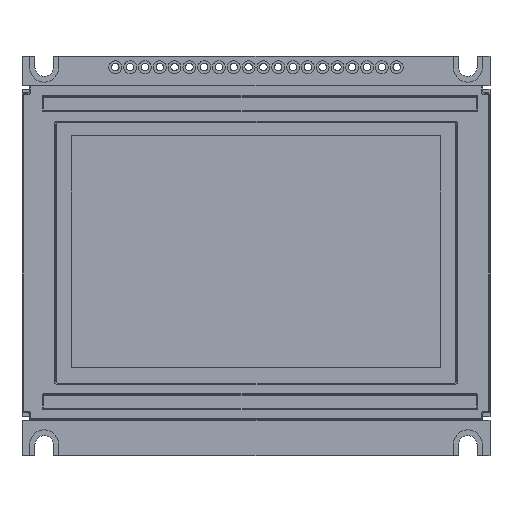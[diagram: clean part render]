
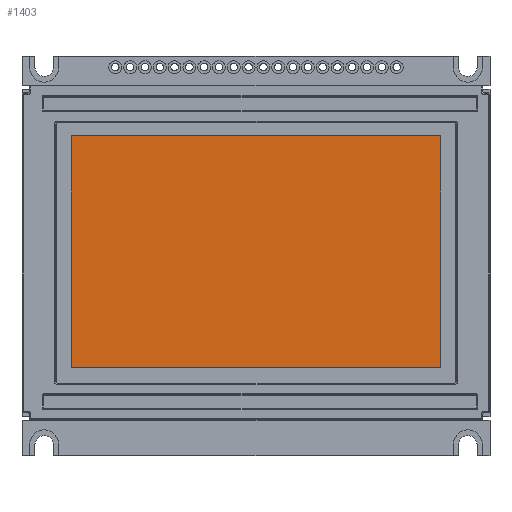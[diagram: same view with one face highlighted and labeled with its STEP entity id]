
A CAD part, top view. The second image highlights one B-rep face of the part: STEP entity #1403.
In plain terms, the highlighted planar face has unit normal (0, 0, 1).
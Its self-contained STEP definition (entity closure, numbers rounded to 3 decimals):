
#1403=ADVANCED_FACE('',(#2850),#2851,.T.);
#2850=FACE_OUTER_BOUND('',#4523,.T.);
#2851=PLANE('',#4524);
#4523=EDGE_LOOP('',(#7430,#7431,#7432,#7433));
#4524=AXIS2_PLACEMENT_3D('',#7434,#7435,#7436);
#7430=ORIENTED_EDGE('',*,*,#10112,.T.);
#7431=ORIENTED_EDGE('',*,*,#10113,.T.);
#7432=ORIENTED_EDGE('',*,*,#10114,.T.);
#7433=ORIENTED_EDGE('',*,*,#10115,.T.);
#7434=CARTESIAN_POINT('',(31.6,-26.438,6.824));
#7435=DIRECTION('',(0.0,0.0,1.0));
#7436=DIRECTION('',(1.0,0.0,0.0));
#10112=EDGE_CURVE('',#12120,#12121,#12122,.T.);
#10113=EDGE_CURVE('',#12121,#12123,#12124,.T.);
#10114=EDGE_CURVE('',#12123,#12125,#12126,.T.);
#10115=EDGE_CURVE('',#12125,#12120,#12127,.T.);
#12120=VERTEX_POINT('',#14778);
#12121=VERTEX_POINT('',#14779);
#12122=LINE('',#14780,#14781);
#12123=VERTEX_POINT('',#14782);
#12124=LINE('',#14783,#14784);
#12125=VERTEX_POINT('',#14785);
#12126=LINE('',#14786,#14787);
#12127=LINE('',#14788,#14789);
#14778=CARTESIAN_POINT('',(56.54,-42.098,6.824));
#14779=CARTESIAN_POINT('',(56.54,-10.778,6.824));
#14780=CARTESIAN_POINT('',(56.54,-26.438,6.824));
#14781=VECTOR('',#17227,1.0);
#14782=CARTESIAN_POINT('',(6.66,-10.778,6.824));
#14783=CARTESIAN_POINT('',(31.6,-10.778,6.824));
#14784=VECTOR('',#17228,1.0);
#14785=CARTESIAN_POINT('',(6.66,-42.098,6.824));
#14786=CARTESIAN_POINT('',(6.66,-26.438,6.824));
#14787=VECTOR('',#17229,1.0);
#14788=CARTESIAN_POINT('',(31.6,-42.098,6.824));
#14789=VECTOR('',#17230,1.0);
#17227=DIRECTION('',(0.0,1.0,0.0));
#17228=DIRECTION('',(-1.0,0.0,0.0));
#17229=DIRECTION('',(0.0,-1.0,0.0));
#17230=DIRECTION('',(1.0,0.0,0.0));
